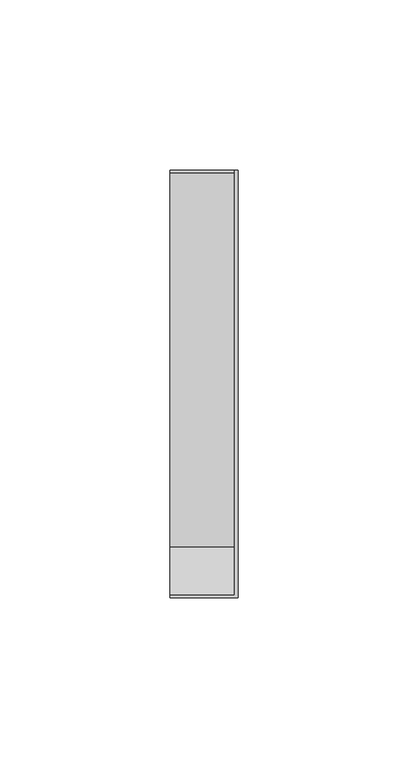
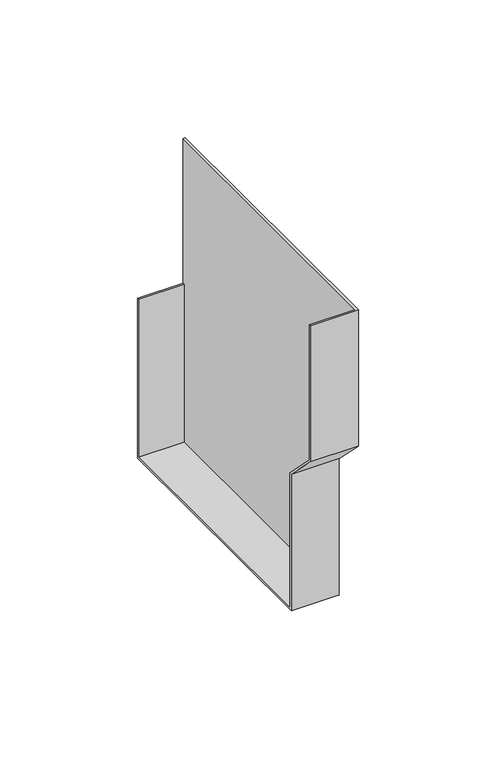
"""IFC4 building model written with IfcOpenShell, lengths in millimetres: proxy geometry, H20.F20.003-G-REMATES TEJA-Tapa Canal : Tapa Canal Teja."""

from ifc_helpers import new_model, si_unit, origin, place, context, project, spatial, faceted_brep, source, transform, mapped, element, save


def generic_models_663f8130(model_context):
    return source(origin(), model_context, "Body", "Brep", [
        faceted_brep([(20.0, -124.9421356, 133.3421356), (20.0, -124.9421356, 73.0107648), (20.0, -110.8, 58.8686292), (20.0, -110.8, -1.6), (20.0, 0.8, -1.6), (20.0, 0.8, 133.3421356), (0.0, 0.0, -0.8), (0.0, 0.0, 69.2), (0.0, 0.8, 69.2), (0.0, 0.8, -1.6), (0.0, -110.8, -1.6), (0.0, -110.8, 58.8686292), (0.0, -124.9421356, 73.0107648), (0.0, -124.9421356, 133.3421356), (0.0, -124.1421356, 133.3421356), (0.0, -124.1421356, 73.3421356), (0.0, -110.0, 59.2), (0.0, -110.0, -0.8), (19.0, -124.1421356, 133.3421356), (19.0, -124.1421356, 73.3421356), (19.0, -110.8, -1.6), (19.0, -110.0, -0.8), (19.0, 0.0, -0.8), (19.0, -110.0, 59.2), (19.0, 0.8, 133.3421356), (19.0, -124.9421356, 73.0107648), (19.0, -110.8, 58.8686292), (19.0, 0.8, 69.2), (19.0, 0.0, 69.2)], [[[0, 1, 2, 3, 4, 5]], [[6, 7, 8, 9, 10, 11, 12, 13, 14, 15, 16, 17]], [[15, 14, 18, 19]], [[9, 4, 3, 20, 10]], [[6, 17, 21, 22]], [[17, 16, 23, 21]], [[16, 15, 19, 23]], [[0, 5, 24, 18, 14, 13]], [[1, 0, 13, 12, 25]], [[2, 1, 25, 12, 11, 26]], [[3, 2, 26, 11, 10, 20]], [[5, 4, 9, 8, 27, 24]], [[8, 7, 28, 27]], [[7, 6, 22, 28]], [[18, 24, 27, 28, 22, 21, 23, 19]]]),
    ])


if __name__ == "__main__":
    model = new_model("IFC4")
    model_context = context("Model", 3, world=origin())
    ifc_project = project(units=[si_unit("LENGTHUNIT", "METRE", prefix="MILLI")], contexts=[model_context])
    site = spatial("IfcSite", under=ifc_project)
    building = spatial("IfcBuilding", under=site)
    placement = place(None, origin())
    generic_models_shape = generic_models_663f8130(model_context)
    element("IfcBuildingElementProxy", 1, Name="H20.F20.003-G-REMATES TEJA-Tapa Canal : Tapa Canal Teja", ObjectType="H20.F20.003-G-REMATES TEJA-Tapa Canal : Tapa Canal Teja", at=placement, inside=building, context=model_context, shape_type="MappedRepresentation", body=[
        mapped(generic_models_shape, transform((0.0, 0.0, 0.0), x_axis=(1.0, 0.0, 0.0), y_axis=(0.0, 1.0, 0.0), z_axis=(0.0, 0.0, 1.0))),
    ])
    save(model, "model.ifc")
